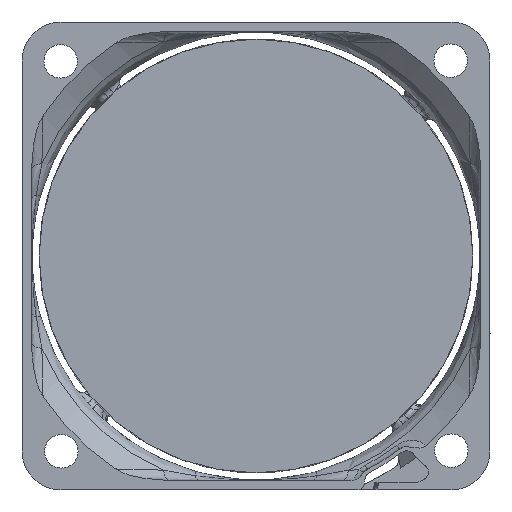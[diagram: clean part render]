
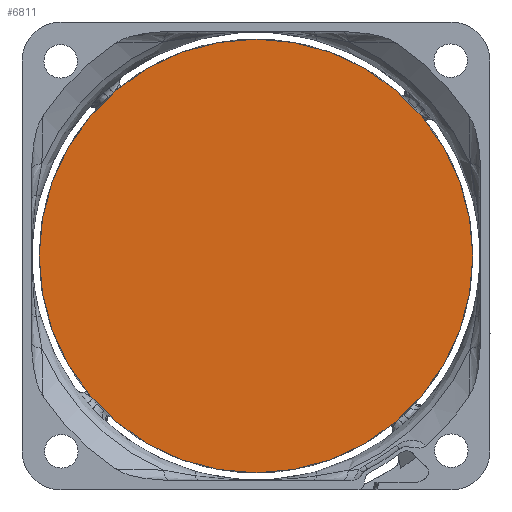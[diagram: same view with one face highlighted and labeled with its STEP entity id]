
A CAD part, front view. The second image highlights one B-rep face of the part: STEP entity #6811.
In plain terms, the highlighted planar face has unit normal (0, -1, 0).
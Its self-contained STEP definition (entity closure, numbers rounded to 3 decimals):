
#19 = AXIS2_PLACEMENT_3D ( 'NONE', #14361, #2956, #13301 ) ;
#1311 = ORIENTED_EDGE ( 'NONE', *, *, #6348, .T. ) ;
#1891 = DIRECTION ( 'NONE',  ( 0., -1., 0. ) ) ;
#2956 = DIRECTION ( 'NONE',  ( 0., -1., 0. ) ) ;
#3537 = AXIS2_PLACEMENT_3D ( 'NONE', #10349, #6934, #11417 ) ;
#4754 = CIRCLE ( 'NONE', #10334, 27.8 ) ;
#4884 = CIRCLE ( 'NONE', #19, 27.8 ) ;
#5858 = CARTESIAN_POINT ( 'NONE',  ( -27.8, -23.5, 0. ) ) ;
#6348 = EDGE_CURVE ( 'NONE', #13237, #11088, #4754, .T. ) ;
#6811 = ADVANCED_FACE ( 'NONE', ( #13702 ), #12556, .T. ) ;
#6934 = DIRECTION ( 'NONE',  ( 0., -1., 0. ) ) ;
#8214 = ORIENTED_EDGE ( 'NONE', *, *, #13201, .T. ) ;
#8501 = CARTESIAN_POINT ( 'NONE',  ( 27.8, -23.5, 0. ) ) ;
#9939 = CARTESIAN_POINT ( 'NONE',  ( 0., -23.5, 0. ) ) ;
#10334 = AXIS2_PLACEMENT_3D ( 'NONE', #9939, #1891, #14576 ) ;
#10349 = CARTESIAN_POINT ( 'NONE',  ( 0., -23.5, 0. ) ) ;
#11088 = VERTEX_POINT ( 'NONE', #5858 ) ;
#11417 = DIRECTION ( 'NONE',  ( 0., 0., -1. ) ) ;
#12556 = PLANE ( 'NONE',  #3537 ) ;
#13201 = EDGE_CURVE ( 'NONE', #11088, #13237, #4884, .T. ) ;
#13237 = VERTEX_POINT ( 'NONE', #8501 ) ;
#13301 = DIRECTION ( 'NONE',  ( 1., 0., 0. ) ) ;
#13702 = FACE_OUTER_BOUND ( 'NONE', #14809, .T. ) ;
#14361 = CARTESIAN_POINT ( 'NONE',  ( 0., -23.5, 0. ) ) ;
#14576 = DIRECTION ( 'NONE',  ( 1., 0., 0. ) ) ;
#14809 = EDGE_LOOP ( 'NONE', ( #1311, #8214 ) ) ;
